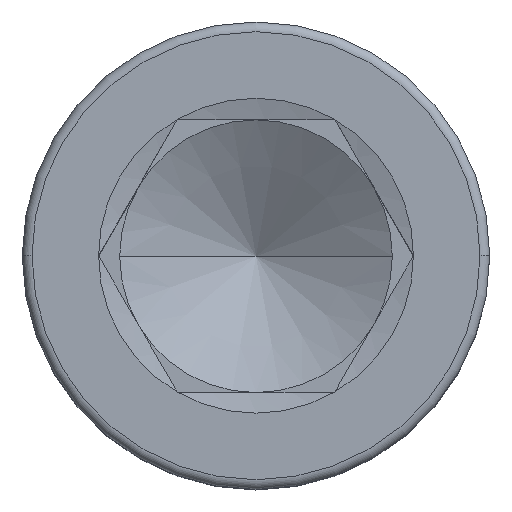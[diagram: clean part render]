
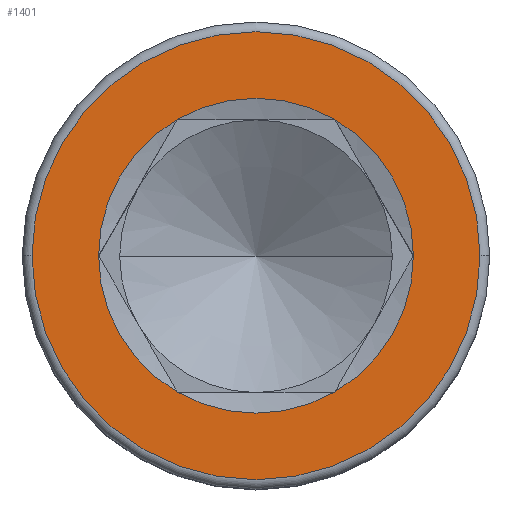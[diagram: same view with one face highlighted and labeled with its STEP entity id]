
A CAD part, top view. The second image highlights one B-rep face of the part: STEP entity #1401.
In plain terms, the highlighted planar face has unit normal (0, 0, 1).
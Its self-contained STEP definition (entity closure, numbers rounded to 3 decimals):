
#13 = CARTESIAN_POINT ( 'NONE',  ( 0., 0., 16. ) ) ;
#40 = CARTESIAN_POINT ( 'NONE',  ( 11.5, 0., 16. ) ) ;
#63 = DIRECTION ( 'NONE',  ( 0., 0., 1. ) ) ;
#64 = CARTESIAN_POINT ( 'NONE',  ( 0., 0., 16. ) ) ;
#80 = ORIENTED_EDGE ( 'NONE', *, *, #1664, .T. ) ;
#94 = CARTESIAN_POINT ( 'NONE',  ( 0., 0., 16. ) ) ;
#101 = CARTESIAN_POINT ( 'NONE',  ( 0., 0., 16. ) ) ;
#111 = CIRCLE ( 'NONE', #1102, 8.083 ) ;
#128 = ORIENTED_EDGE ( 'NONE', *, *, #1605, .F. ) ;
#188 = DIRECTION ( 'NONE',  ( 1., 0., 0. ) ) ;
#241 = CIRCLE ( 'NONE', #785, 11.5 ) ;
#246 = DIRECTION ( 'NONE',  ( 1., 0., 0. ) ) ;
#267 = DIRECTION ( 'NONE',  ( 1., 0., 0. ) ) ;
#275 = AXIS2_PLACEMENT_3D ( 'NONE', #1303, #1604, #1281 ) ;
#282 = EDGE_CURVE ( 'NONE', #1587, #854, #462, .T. ) ;
#289 = DIRECTION ( 'NONE',  ( 0., 0., 1. ) ) ;
#294 = VERTEX_POINT ( 'NONE', #1302 ) ;
#308 = AXIS2_PLACEMENT_3D ( 'NONE', #1027, #289, #267 ) ;
#316 = CARTESIAN_POINT ( 'NONE',  ( -11.5, 0., 16. ) ) ;
#365 = VERTEX_POINT ( 'NONE', #879 ) ;
#408 = DIRECTION ( 'NONE',  ( 1., 0., 0. ) ) ;
#462 = CIRCLE ( 'NONE', #1354, 8.083 ) ;
#535 = EDGE_CURVE ( 'NONE', #673, #1587, #904, .T. ) ;
#569 = VERTEX_POINT ( 'NONE', #643 ) ;
#592 = DIRECTION ( 'NONE',  ( 0., 0., 1. ) ) ;
#597 = CARTESIAN_POINT ( 'NONE',  ( 0., 0., 16. ) ) ;
#611 = VERTEX_POINT ( 'NONE', #40 ) ;
#643 = CARTESIAN_POINT ( 'NONE',  ( 8.083, 0., 16. ) ) ;
#656 = CIRCLE ( 'NONE', #308, 8.083 ) ;
#673 = VERTEX_POINT ( 'NONE', #965 ) ;
#690 = DIRECTION ( 'NONE',  ( 1., 0., 0. ) ) ;
#704 = DIRECTION ( 'NONE',  ( 0., 0., 1. ) ) ;
#707 = EDGE_CURVE ( 'NONE', #1103, #611, #1907, .T. ) ;
#732 = CARTESIAN_POINT ( 'NONE',  ( 0., 0., 16. ) ) ;
#785 = AXIS2_PLACEMENT_3D ( 'NONE', #64, #1888, #1573 ) ;
#854 = VERTEX_POINT ( 'NONE', #1959 ) ;
#855 = ORIENTED_EDGE ( 'NONE', *, *, #282, .F. ) ;
#879 = CARTESIAN_POINT ( 'NONE',  ( 4.041, 7., 16. ) ) ;
#904 = CIRCLE ( 'NONE', #1674, 8.083 ) ;
#944 = AXIS2_PLACEMENT_3D ( 'NONE', #94, #1942, #408 ) ;
#965 = CARTESIAN_POINT ( 'NONE',  ( -8.083, 0., 16. ) ) ;
#993 = EDGE_LOOP ( 'NONE', ( #128, #1132, #855, #1432, #1296, #1667 ) ) ;
#1027 = CARTESIAN_POINT ( 'NONE',  ( 0., 0., 16. ) ) ;
#1102 = AXIS2_PLACEMENT_3D ( 'NONE', #732, #592, #1337 ) ;
#1103 = VERTEX_POINT ( 'NONE', #316 ) ;
#1132 = ORIENTED_EDGE ( 'NONE', *, *, #1763, .F. ) ;
#1140 = CIRCLE ( 'NONE', #944, 8.083 ) ;
#1154 = CARTESIAN_POINT ( 'NONE',  ( -4.041, -7., 16. ) ) ;
#1171 = AXIS2_PLACEMENT_3D ( 'NONE', #597, #1207, #1835 ) ;
#1173 = CIRCLE ( 'NONE', #275, 8.083 ) ;
#1177 = EDGE_LOOP ( 'NONE', ( #80, #1463 ) ) ;
#1180 = CARTESIAN_POINT ( 'NONE',  ( 0., 0., 16. ) ) ;
#1207 = DIRECTION ( 'NONE',  ( 0., 0., 1. ) ) ;
#1281 = DIRECTION ( 'NONE',  ( 1., 0., 0. ) ) ;
#1296 = ORIENTED_EDGE ( 'NONE', *, *, #1815, .F. ) ;
#1302 = CARTESIAN_POINT ( 'NONE',  ( -4.041, 7., 16. ) ) ;
#1303 = CARTESIAN_POINT ( 'NONE',  ( 0., 0., 16. ) ) ;
#1337 = DIRECTION ( 'NONE',  ( 1., 0., 0. ) ) ;
#1347 = PLANE ( 'NONE',  #1171 ) ;
#1354 = AXIS2_PLACEMENT_3D ( 'NONE', #101, #63, #690 ) ;
#1401 = ADVANCED_FACE ( 'NONE', ( #1787, #1673 ), #1347, .T. ) ;
#1432 = ORIENTED_EDGE ( 'NONE', *, *, #535, .F. ) ;
#1463 = ORIENTED_EDGE ( 'NONE', *, *, #707, .T. ) ;
#1573 = DIRECTION ( 'NONE',  ( 1., 0., 0. ) ) ;
#1587 = VERTEX_POINT ( 'NONE', #1154 ) ;
#1604 = DIRECTION ( 'NONE',  ( 0., 0., 1. ) ) ;
#1605 = EDGE_CURVE ( 'NONE', #569, #365, #1173, .T. ) ;
#1664 = EDGE_CURVE ( 'NONE', #611, #1103, #241, .T. ) ;
#1667 = ORIENTED_EDGE ( 'NONE', *, *, #1861, .F. ) ;
#1673 = FACE_BOUND ( 'NONE', #993, .T. ) ;
#1674 = AXIS2_PLACEMENT_3D ( 'NONE', #13, #1894, #188 ) ;
#1763 = EDGE_CURVE ( 'NONE', #854, #569, #656, .T. ) ;
#1787 = FACE_OUTER_BOUND ( 'NONE', #1177, .T. ) ;
#1815 = EDGE_CURVE ( 'NONE', #294, #673, #111, .T. ) ;
#1835 = DIRECTION ( 'NONE',  ( 1., 0., 0. ) ) ;
#1861 = EDGE_CURVE ( 'NONE', #365, #294, #1140, .T. ) ;
#1888 = DIRECTION ( 'NONE',  ( 0., 0., 1. ) ) ;
#1894 = DIRECTION ( 'NONE',  ( 0., 0., 1. ) ) ;
#1907 = CIRCLE ( 'NONE', #1971, 11.5 ) ;
#1942 = DIRECTION ( 'NONE',  ( 0., 0., 1. ) ) ;
#1959 = CARTESIAN_POINT ( 'NONE',  ( 4.041, -7., 16. ) ) ;
#1971 = AXIS2_PLACEMENT_3D ( 'NONE', #1180, #704, #246 ) ;
